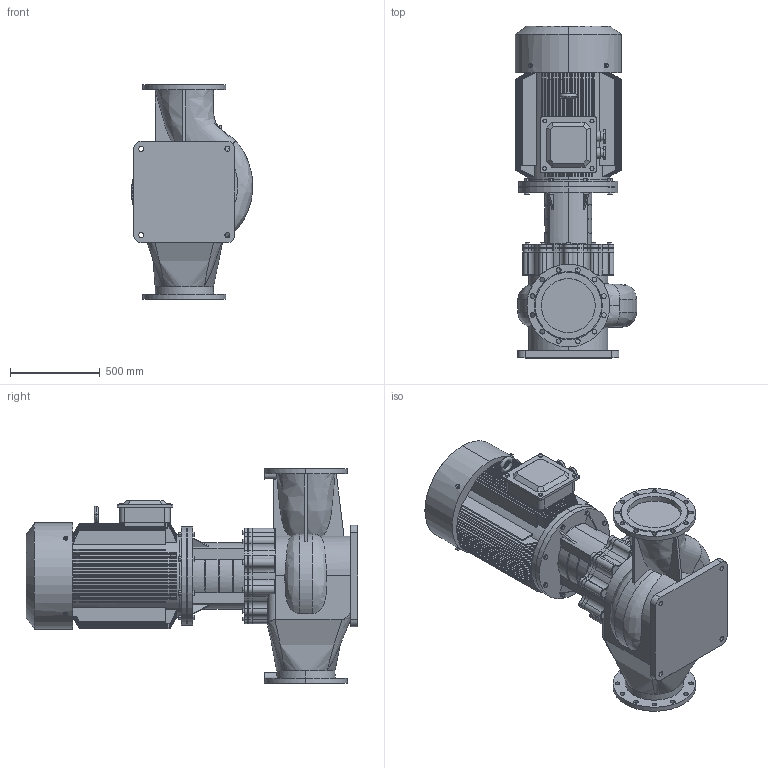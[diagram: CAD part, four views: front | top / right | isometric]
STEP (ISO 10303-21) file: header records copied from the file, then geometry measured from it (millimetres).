
FILE_DESCRIPTION (( 'STEP AP203' ), '1' );
FILE_NAME ('TD300-25G／4.STEP', '2026-09-07T03:34:04', ( '' ), ( '' ), 'SwSTEP 2.0', 'SolidWorks 2020', '' );
FILE_SCHEMA (( 'CONFIG_CONTROL_DESIGN' ));
Length unit declared in the file: millimetre
Products named in the file (1): TD300-25Gㄞ4
Bounding box: 675.51 x 1847 x 1200 mm (x, y, z)
Volume: 453717277.2 mm3; surface area: 11884776.9 mm2
Topology: 1 solids, 10 shells, 1871 faces, 4722 edges, 2979 vertices
Faces by surface type: plane 754, cylinder 518, cone 511, torus 48, bspline 40
Entity records: 81110 total; most frequent: CARTESIAN_POINT 36849, ORIENTED_EDGE 9444, DIRECTION 9053, EDGE_CURVE 4722, AXIS2_PLACEMENT_3D 3649, VERTEX_POINT 2979, EDGE_LOOP 2055, FACE_OUTER_BOUND 1871
